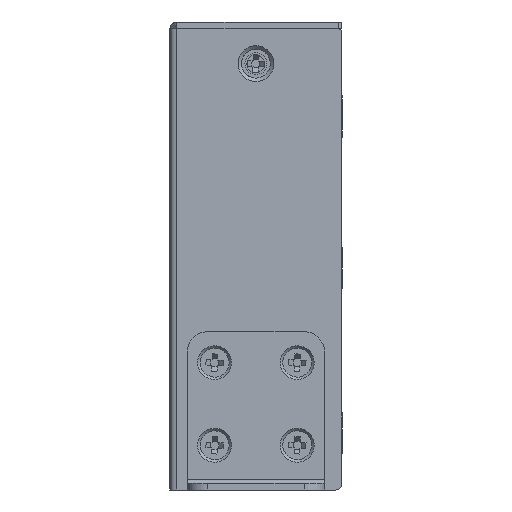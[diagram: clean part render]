
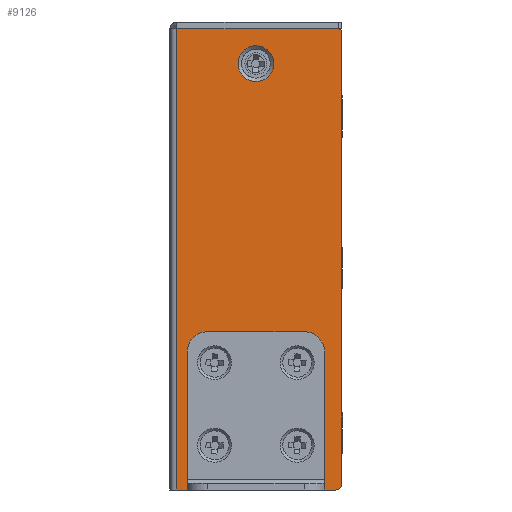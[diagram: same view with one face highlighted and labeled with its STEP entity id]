
A CAD part, left-side view. The second image highlights one B-rep face of the part: STEP entity #9126.
In plain terms, the highlighted planar face has unit normal (-1, 0, 0).
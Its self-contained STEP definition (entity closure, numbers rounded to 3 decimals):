
#590=FACE_BOUND('',#1766,.T.);
#591=FACE_BOUND('',#1767,.T.);
#592=FACE_BOUND('',#1768,.T.);
#593=FACE_BOUND('',#1769,.T.);
#594=FACE_BOUND('',#1770,.T.);
#595=FACE_BOUND('',#1771,.T.);
#684=CIRCLE('',#9783,0.5);
#686=CIRCLE('',#9786,1.);
#687=CIRCLE('',#9787,1.25);
#688=CIRCLE('',#9788,1.25);
#689=CIRCLE('',#9789,1.25);
#690=CIRCLE('',#9790,2.6);
#691=CIRCLE('',#9791,2.6);
#692=CIRCLE('',#9792,1.25);
#1258=FACE_OUTER_BOUND('',#1765,.T.);
#1765=EDGE_LOOP('',(#6225,#6226,#6227,#6228,#6229,#6230));
#1766=EDGE_LOOP('',(#6231));
#1767=EDGE_LOOP('',(#6232));
#1768=EDGE_LOOP('',(#6233));
#1769=EDGE_LOOP('',(#6234));
#1770=EDGE_LOOP('',(#6235));
#1771=EDGE_LOOP('',(#6236));
#2363=LINE('',#13448,#3220);
#2368=LINE('',#13459,#3225);
#2370=LINE('',#13468,#3227);
#2371=LINE('',#13471,#3228);
#3220=VECTOR('',#10723,67.);
#3225=VECTOR('',#10734,23.5);
#3227=VECTOR('',#10744,23.);
#3228=VECTOR('',#10747,65.5);
#4077=VERTEX_POINT('',#13445);
#4078=VERTEX_POINT('',#13447);
#4080=VERTEX_POINT('',#13455);
#4082=VERTEX_POINT('',#13461);
#4084=VERTEX_POINT('',#13467);
#4085=VERTEX_POINT('',#13469);
#4086=VERTEX_POINT('',#13472);
#4087=VERTEX_POINT('',#13474);
#4088=VERTEX_POINT('',#13476);
#4089=VERTEX_POINT('',#13478);
#4090=VERTEX_POINT('',#13480);
#4091=VERTEX_POINT('',#13482);
#4902=EDGE_CURVE('',#4078,#4077,#2363,.T.);
#4908=EDGE_CURVE('',#4078,#4080,#2368,.T.);
#4909=EDGE_CURVE('',#4080,#4082,#684,.T.);
#4912=EDGE_CURVE('',#4084,#4077,#2370,.T.);
#4913=EDGE_CURVE('',#4085,#4084,#686,.T.);
#4914=EDGE_CURVE('',#4082,#4085,#2371,.T.);
#4915=EDGE_CURVE('',#4086,#4086,#687,.T.);
#4916=EDGE_CURVE('',#4087,#4087,#688,.T.);
#4917=EDGE_CURVE('',#4088,#4088,#689,.T.);
#4918=EDGE_CURVE('',#4089,#4089,#690,.T.);
#4919=EDGE_CURVE('',#4090,#4090,#691,.T.);
#4920=EDGE_CURVE('',#4091,#4091,#692,.T.);
#6225=ORIENTED_EDGE('',*,*,#4909,.F.);
#6226=ORIENTED_EDGE('',*,*,#4908,.F.);
#6227=ORIENTED_EDGE('',*,*,#4902,.T.);
#6228=ORIENTED_EDGE('',*,*,#4912,.F.);
#6229=ORIENTED_EDGE('',*,*,#4913,.F.);
#6230=ORIENTED_EDGE('',*,*,#4914,.F.);
#6231=ORIENTED_EDGE('',*,*,#4915,.F.);
#6232=ORIENTED_EDGE('',*,*,#4916,.F.);
#6233=ORIENTED_EDGE('',*,*,#4917,.F.);
#6234=ORIENTED_EDGE('',*,*,#4918,.F.);
#6235=ORIENTED_EDGE('',*,*,#4919,.F.);
#6236=ORIENTED_EDGE('',*,*,#4920,.F.);
#8827=PLANE('',#9785);
#9126=ADVANCED_FACE('',(#1258,#590,#591,#592,#593,#594,#595),#8827,.T.);
#9783=AXIS2_PLACEMENT_3D('',#13462,#10737,#10738);
#9785=AXIS2_PLACEMENT_3D('',#13466,#10742,#10743);
#9786=AXIS2_PLACEMENT_3D('',#13470,#10745,#10746);
#9787=AXIS2_PLACEMENT_3D('',#13473,#10748,#10749);
#9788=AXIS2_PLACEMENT_3D('',#13475,#10750,#10751);
#9789=AXIS2_PLACEMENT_3D('',#13477,#10752,#10753);
#9790=AXIS2_PLACEMENT_3D('',#13479,#10754,#10755);
#9791=AXIS2_PLACEMENT_3D('',#13481,#10756,#10757);
#9792=AXIS2_PLACEMENT_3D('',#13483,#10758,#10759);
#10723=DIRECTION('',(0.,0.,-1.));
#10734=DIRECTION('',(0.,-1.,0.));
#10737=DIRECTION('center_axis',(1.,0.,0.));
#10738=DIRECTION('ref_axis',(0.,0.,1.));
#10742=DIRECTION('center_axis',(-1.,0.,0.));
#10743=DIRECTION('ref_axis',(0.,0.,-1.));
#10744=DIRECTION('',(0.,1.,0.));
#10745=DIRECTION('center_axis',(1.,0.,0.));
#10746=DIRECTION('ref_axis',(0.,-1.,0.));
#10747=DIRECTION('',(0.,0.,-1.));
#10748=DIRECTION('center_axis',(-1.,0.,0.));
#10749=DIRECTION('ref_axis',(0.,0.,-1.));
#10750=DIRECTION('center_axis',(-1.,0.,0.));
#10751=DIRECTION('ref_axis',(0.,0.,-1.));
#10752=DIRECTION('center_axis',(-1.,0.,0.));
#10753=DIRECTION('ref_axis',(0.,0.,-1.));
#10754=DIRECTION('center_axis',(-1.,0.,0.));
#10755=DIRECTION('ref_axis',(0.,0.,1.));
#10756=DIRECTION('center_axis',(-1.,0.,0.));
#10757=DIRECTION('ref_axis',(0.,0.,1.));
#10758=DIRECTION('center_axis',(-1.,0.,0.));
#10759=DIRECTION('ref_axis',(0.,0.,-1.));
#13445=CARTESIAN_POINT('',(-80.5,24.,-34.));
#13447=CARTESIAN_POINT('',(-80.5,24.,33.));
#13448=CARTESIAN_POINT('',(-80.5,24.,33.));
#13455=CARTESIAN_POINT('',(-80.5,0.5,33.));
#13459=CARTESIAN_POINT('',(-80.5,24.,33.));
#13461=CARTESIAN_POINT('',(-80.5,0.,32.5));
#13462=CARTESIAN_POINT('Origin',(-80.5,0.5,32.5));
#13466=CARTESIAN_POINT('Origin',(-80.5,25.,-34.));
#13467=CARTESIAN_POINT('',(-80.5,1.,-34.));
#13468=CARTESIAN_POINT('',(-80.5,1.,-34.));
#13469=CARTESIAN_POINT('',(-80.5,0.,-33.));
#13470=CARTESIAN_POINT('Origin',(-80.5,1.,-33.));
#13471=CARTESIAN_POINT('',(-80.5,0.,32.5));
#13472=CARTESIAN_POINT('',(-80.5,6.5,-16.75));
#13473=CARTESIAN_POINT('Origin',(-80.5,6.5,-15.5));
#13474=CARTESIAN_POINT('',(-80.5,18.5,-28.75));
#13475=CARTESIAN_POINT('Origin',(-80.5,18.5,-27.5));
#13476=CARTESIAN_POINT('',(-80.5,6.5,-28.75));
#13477=CARTESIAN_POINT('Origin',(-80.5,6.5,-27.5));
#13478=CARTESIAN_POINT('',(-80.5,12.5,-25.35));
#13479=CARTESIAN_POINT('Origin',(-80.5,12.5,-27.95));
#13480=CARTESIAN_POINT('',(-80.5,12.5,30.55));
#13481=CARTESIAN_POINT('Origin',(-80.5,12.5,27.95));
#13482=CARTESIAN_POINT('',(-80.5,18.5,-16.75));
#13483=CARTESIAN_POINT('Origin',(-80.5,18.5,-15.5));
